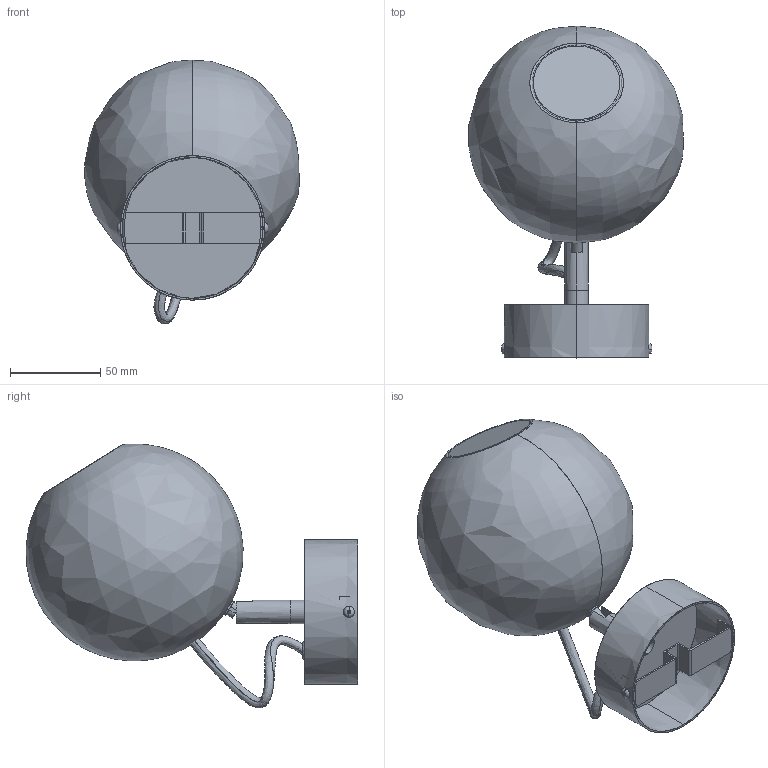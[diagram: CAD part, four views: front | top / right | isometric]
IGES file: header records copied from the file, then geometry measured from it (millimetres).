
Start section: SolidWorks IGES file using analytic representation for surfaces
Global section: file name: C:\Users\ppp\Desktop\Nowodvorski\Modele 3D_lampy\Bubble\3ds\Bubble_kinkiet.IGS; native system: SolidWorks 2012; preprocessor: SolidWorks 2012; author: ppp; date: 150727.130907; units: millimetre
Bounding box: 118.88 x 183.74 x 146.2 mm (x, y, z)
Surface area: 134123.7 mm2 (no closed solid volume)
Topology: 0 solids, 0 shells, 183 faces, 2952 edges, 2946 vertices
Faces by surface type: bspline 120, revolution 63
